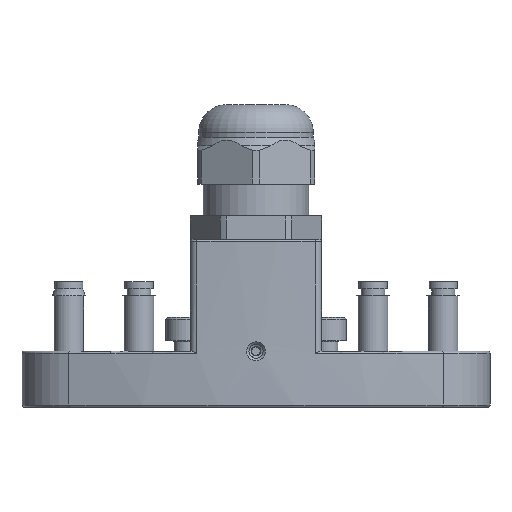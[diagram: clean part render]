
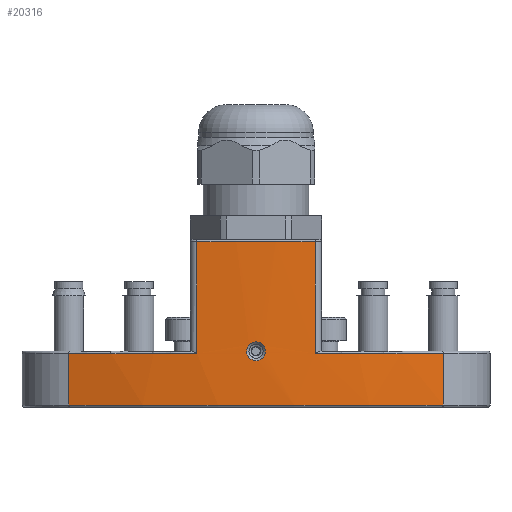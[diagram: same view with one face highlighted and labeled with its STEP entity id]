
A CAD part, left-side view. The second image highlights one B-rep face of the part: STEP entity #20316.
In plain terms, the highlighted cylindrical face has radius 140 mm (diameter 280 mm), a partial arc.
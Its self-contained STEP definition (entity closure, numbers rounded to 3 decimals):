
#715=B_SPLINE_CURVE_WITH_KNOTS('',3,(#36991,#36992,#36993,#36994,#36995,
#36996,#36997,#36998,#36999,#37000,#37001,#37002,#37003,#37004,#37005,#37006,
#37007,#37008,#37009,#37010,#37011,#37012,#37013,#37014,#37015,#37016,#37017,
#37018,#37019,#37020,#37021,#37022),.UNSPECIFIED.,.T.,.F.,(4,1,1,1,1,1,
1,1,1,1,1,1,1,1,1,1,1,1,1,1,1,1,1,1,1,1,1,1,1,4),(-1.13,-1.065,
-1.001,-0.936,-0.872,-0.871,
-0.871,-0.87,-0.868,-0.864,
-0.856,-0.848,-0.839,-0.831,
-0.823,-0.807,-0.783,-0.775,
-0.743,-0.71,-0.694,-0.686,
-0.678,-0.613,-0.549,-0.484,
-0.42,-0.355,-0.291,-0.226),
 .UNSPECIFIED.);
#1000=FACE_BOUND('',#4135,.T.);
#1772=CYLINDRICAL_SURFACE('',#22069,140.);
#2807=FACE_OUTER_BOUND('',#4134,.T.);
#4134=EDGE_LOOP('',(#18224,#18225,#18226,#18227,#18228,#18229,#18230,#18231));
#4135=EDGE_LOOP('',(#18232));
#5580=LINE('',#36970,#6943);
#5582=LINE('',#36982,#6945);
#5583=LINE('',#36986,#6946);
#5584=LINE('',#36989,#6947);
#6943=VECTOR('',#26837,10.);
#6945=VECTOR('',#26851,10.);
#6946=VECTOR('',#26854,10.);
#6947=VECTOR('',#26857,10.);
#7896=CIRCLE('',#22067,140.);
#7898=CIRCLE('',#22070,140.);
#7899=CIRCLE('',#22071,140.);
#7900=CIRCLE('',#22072,140.);
#9943=VERTEX_POINT('',#36950);
#9945=VERTEX_POINT('',#36956);
#9948=VERTEX_POINT('',#36975);
#9949=VERTEX_POINT('',#36979);
#9950=VERTEX_POINT('',#36981);
#9951=VERTEX_POINT('',#36983);
#9952=VERTEX_POINT('',#36985);
#9953=VERTEX_POINT('',#36987);
#9954=VERTEX_POINT('',#36990);
#12748=EDGE_CURVE('',#9945,#9943,#5580,.T.);
#12751=EDGE_CURVE('',#9943,#9948,#7896,.T.);
#12753=EDGE_CURVE('',#9949,#9945,#7898,.T.);
#12754=EDGE_CURVE('',#9950,#9949,#5582,.T.);
#12755=EDGE_CURVE('',#9951,#9950,#7899,.T.);
#12756=EDGE_CURVE('',#9951,#9952,#5583,.T.);
#12757=EDGE_CURVE('',#9953,#9952,#7900,.T.);
#12758=EDGE_CURVE('',#9948,#9953,#5584,.T.);
#12759=EDGE_CURVE('',#9954,#9954,#715,.T.);
#18224=ORIENTED_EDGE('',*,*,#12748,.F.);
#18225=ORIENTED_EDGE('',*,*,#12753,.F.);
#18226=ORIENTED_EDGE('',*,*,#12754,.F.);
#18227=ORIENTED_EDGE('',*,*,#12755,.F.);
#18228=ORIENTED_EDGE('',*,*,#12756,.T.);
#18229=ORIENTED_EDGE('',*,*,#12757,.F.);
#18230=ORIENTED_EDGE('',*,*,#12758,.F.);
#18231=ORIENTED_EDGE('',*,*,#12751,.F.);
#18232=ORIENTED_EDGE('',*,*,#12759,.F.);
#20316=ADVANCED_FACE('',(#2807,#1000),#1772,.T.);
#22067=AXIS2_PLACEMENT_3D('',#36976,#26843,#26844);
#22069=AXIS2_PLACEMENT_3D('',#36978,#26847,#26848);
#22070=AXIS2_PLACEMENT_3D('',#36980,#26849,#26850);
#22071=AXIS2_PLACEMENT_3D('',#36984,#26852,#26853);
#22072=AXIS2_PLACEMENT_3D('',#36988,#26855,#26856);
#26837=DIRECTION('',(0.,0.,1.));
#26843=DIRECTION('center_axis',(0.,0.,
1.));
#26844=DIRECTION('ref_axis',(-1.,0.,0.));
#26847=DIRECTION('center_axis',(0.,0.,
1.));
#26848=DIRECTION('ref_axis',(-0.958,0.286,0.));
#26849=DIRECTION('center_axis',(0.,0.,
1.));
#26850=DIRECTION('ref_axis',(-0.958,0.286,0.));
#26851=DIRECTION('',(0.,0.,1.));
#26852=DIRECTION('center_axis',(0.,0.,
-1.));
#26853=DIRECTION('ref_axis',(-1.,0.,0.));
#26854=DIRECTION('',(0.,0.,1.));
#26855=DIRECTION('center_axis',(0.,0.,
1.));
#26856=DIRECTION('ref_axis',(-0.958,0.286,0.));
#26857=DIRECTION('',(0.,0.,-1.));
#36950=CARTESIAN_POINT('',(16.005,-126.352,123.231));
#36956=CARTESIAN_POINT('',(16.005,-126.352,99.331));
#36970=CARTESIAN_POINT('',(16.005,-126.352,87.831));
#36975=CARTESIAN_POINT('',(16.005,-151.623,123.231));
#36976=CARTESIAN_POINT('Origin',(155.434,-138.988,123.231));
#36978=CARTESIAN_POINT('Origin',(155.434,-138.988,87.831));
#36979=CARTESIAN_POINT('',(21.27,-98.988,99.331));
#36980=CARTESIAN_POINT('Origin',(155.434,-138.988,99.331));
#36981=CARTESIAN_POINT('',(21.27,-98.988,88.331));
#36982=CARTESIAN_POINT('',(21.27,-98.988,87.831));
#36983=CARTESIAN_POINT('',(21.27,-178.988,88.331));
#36984=CARTESIAN_POINT('Origin',(155.434,-138.988,88.331));
#36985=CARTESIAN_POINT('',(21.27,-178.988,99.331));
#36986=CARTESIAN_POINT('',(21.27,-178.988,87.831));
#36987=CARTESIAN_POINT('',(16.005,-151.623,99.331));
#36988=CARTESIAN_POINT('Origin',(155.434,-138.988,99.331));
#36989=CARTESIAN_POINT('',(16.005,-151.623,87.831));
#36990=CARTESIAN_POINT('',(15.434,-138.988,97.831));
#36991=CARTESIAN_POINT('Ctrl Pts',(15.434,-138.988,97.831));
#36992=CARTESIAN_POINT('Ctrl Pts',(15.434,-139.275,97.831));
#36993=CARTESIAN_POINT('Ctrl Pts',(15.436,-139.897,97.979));
#36994=CARTESIAN_POINT('Ctrl Pts',(15.443,-140.6,98.532));
#36995=CARTESIAN_POINT('Ctrl Pts',(15.448,-141.01,99.395));
#36996=CARTESIAN_POINT('Ctrl Pts',(15.448,-141.006,99.98));
#36997=CARTESIAN_POINT('Ctrl Pts',(15.447,-140.938,100.279));
#36998=CARTESIAN_POINT('Ctrl Pts',(15.447,-140.936,100.288));
#36999=CARTESIAN_POINT('Ctrl Pts',(15.447,-140.932,100.304));
#37000=CARTESIAN_POINT('Ctrl Pts',(15.447,-140.924,100.336));
#37001=CARTESIAN_POINT('Ctrl Pts',(15.447,-140.907,100.4));
#37002=CARTESIAN_POINT('Ctrl Pts',(15.446,-140.878,100.491));
#37003=CARTESIAN_POINT('Ctrl Pts',(15.446,-140.837,100.598));
#37004=CARTESIAN_POINT('Ctrl Pts',(15.445,-140.791,100.702));
#37005=CARTESIAN_POINT('Ctrl Pts',(15.445,-140.738,100.804));
#37006=CARTESIAN_POINT('Ctrl Pts',(15.444,-140.661,100.934));
#37007=CARTESIAN_POINT('Ctrl Pts',(15.442,-140.528,101.118));
#37008=CARTESIAN_POINT('Ctrl Pts',(15.441,-140.382,101.273));
#37009=CARTESIAN_POINT('Ctrl Pts',(15.438,-140.157,101.464));
#37010=CARTESIAN_POINT('Ctrl Pts',(15.436,-139.868,101.648));
#37011=CARTESIAN_POINT('Ctrl Pts',(15.434,-139.504,101.775));
#37012=CARTESIAN_POINT('Ctrl Pts',(15.434,-139.245,101.818));
#37013=CARTESIAN_POINT('Ctrl Pts',(15.434,-139.098,101.83));
#37014=CARTESIAN_POINT('Ctrl Pts',(15.433,-138.74,101.841));
#37015=CARTESIAN_POINT('Ctrl Pts',(15.436,-138.082,101.687));
#37016=CARTESIAN_POINT('Ctrl Pts',(15.443,-137.376,101.128));
#37017=CARTESIAN_POINT('Ctrl Pts',(15.448,-136.967,100.279));
#37018=CARTESIAN_POINT('Ctrl Pts',(15.448,-136.966,99.387));
#37019=CARTESIAN_POINT('Ctrl Pts',(15.443,-137.374,98.535));
#37020=CARTESIAN_POINT('Ctrl Pts',(15.436,-138.079,97.977));
#37021=CARTESIAN_POINT('Ctrl Pts',(15.434,-138.701,97.831));
#37022=CARTESIAN_POINT('Ctrl Pts',(15.434,-138.988,97.831));
